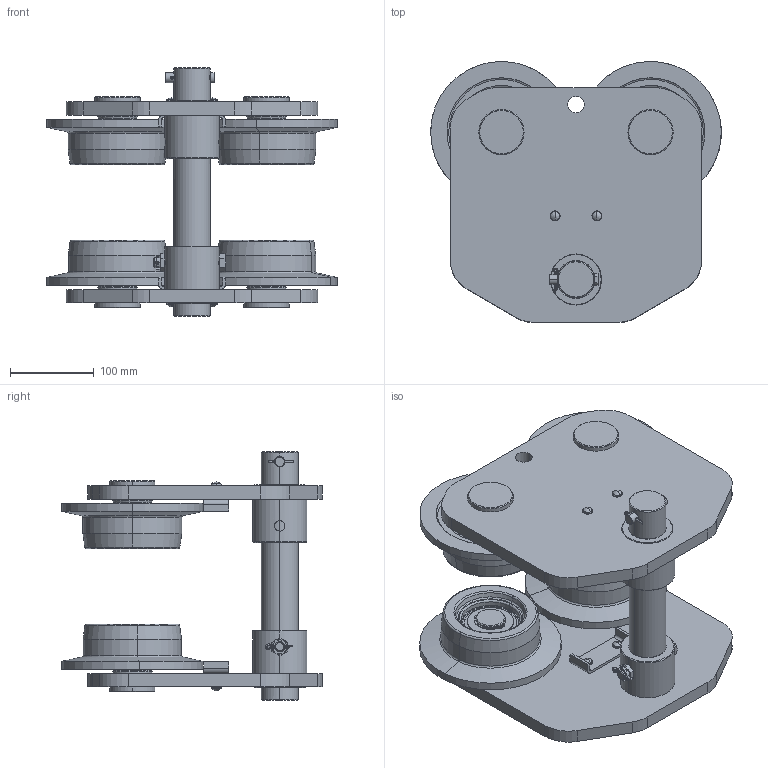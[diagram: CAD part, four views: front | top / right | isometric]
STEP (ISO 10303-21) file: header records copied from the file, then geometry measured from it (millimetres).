
FILE_DESCRIPTION (( 'STEP AP214' ), '1' );
FILE_NAME ('PTF2050.STEP', '2026-08-17T12:43:27', ( '' ), ( '' ), 'SwSTEP 2.0', 'SolidWorks 2026', '' );
FILE_SCHEMA (( 'AUTOMOTIVE_DESIGN' ));
Length unit declared in the file: inch
Products named in the file (19): J1NL00210120; T3GA0509113; 9009423_9009423; T3GA0509117; T3P110050; T3P153050; 6307Z Bearing; T3GA0509102; MS164030; 9009432_9009432; T3GA0509112; T3P1102050; J1RA31080030; M6SE050S9103; PTF2050; basic internal retaining ring_am_PreviewCfg; T6G115050; 9047135_9047135; MS104050
Assembly tree (30 placements, depth 3):
  PTF2050
    T3P110050  x2
      T3GA0509112
      M6SE050S9103
      T3GA0509117
      T3GA0509113
      J1RA31080030
    T3P1102050  x4
      T3GA0509102
      basic internal retaining ring_am_PreviewCfg
      6307Z Bearing
    MS104050  x4
    9047135_9047135  x4
    T3P153050
    T6G115050
    MS164030
    9009423_9009423
    J1NL00210120
    9009432_9009432
Bounding box: 346.97 x 311.5 x 297 mm (x, y, z)
Volume: 5062529.1 mm3; surface area: 969650.3 mm2
Topology: 36 solids, 52 shells, 2345 faces, 6041 edges, 3943 vertices
Faces by surface type: plane 1358, cylinder 575, cone 144, bspline 136, torus 132
Entity records: 27389 total; most frequent: CARTESIAN_POINT 8214, ORIENTED_EDGE 3764, DIRECTION 3551, EDGE_CURVE 1884, AXIS2_PLACEMENT_3D 1392, VERTEX_POINT 1217, EDGE_LOOP 825, VECTOR 767
